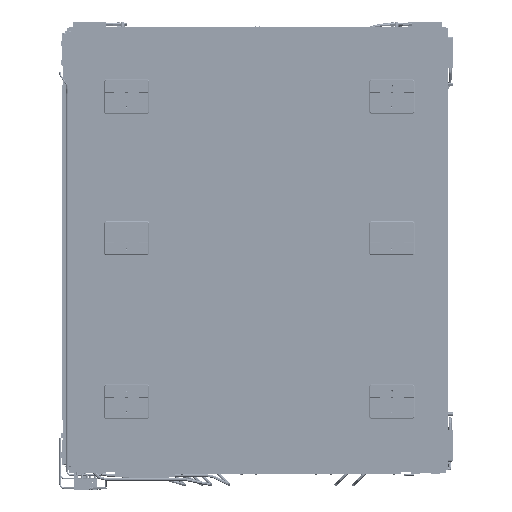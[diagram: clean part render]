
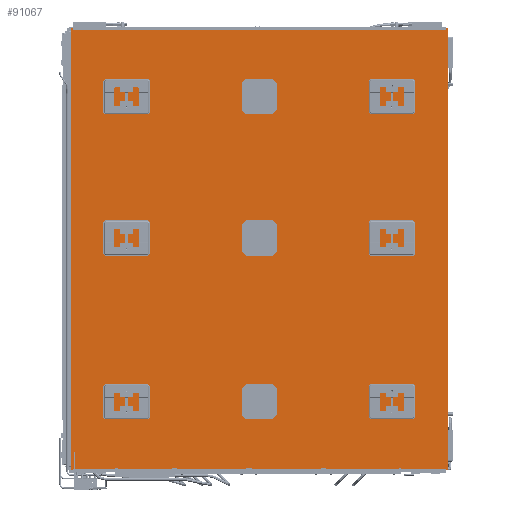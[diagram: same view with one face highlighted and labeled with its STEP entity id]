
A CAD part, front view. The second image highlights one B-rep face of the part: STEP entity #91067.
In plain terms, the highlighted planar face has unit normal (0, -1, 0).
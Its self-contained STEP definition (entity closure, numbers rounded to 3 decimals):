
#4866=B_SPLINE_CURVE_WITH_KNOTS('',1,(#467479,#467480),.UNSPECIFIED.,.F.,
 .F.,(2,2),(0.,1.),.UNSPECIFIED.);
#4870=B_SPLINE_CURVE_WITH_KNOTS('',1,(#467491,#467492),.UNSPECIFIED.,.F.,
 .F.,(2,2),(0.,1.),.UNSPECIFIED.);
#4871=B_SPLINE_CURVE_WITH_KNOTS('',1,(#467494,#467495),.UNSPECIFIED.,.F.,
 .F.,(2,2),(0.,1.),.UNSPECIFIED.);
#4872=B_SPLINE_CURVE_WITH_KNOTS('',1,(#467497,#467498),.UNSPECIFIED.,.F.,
 .F.,(2,2),(0.,1.),.UNSPECIFIED.);
#57856=FACE_OUTER_BOUND('',#131988,.T.);
#91067=ADVANCED_FACE('',(#57856),#101712,.T.);
#101712=PLANE('',#298922);
#131988=EDGE_LOOP('',(#192848,#192849,#192850,#192851));
#192848=ORIENTED_EDGE('',*,*,#261274,.T.);
#192849=ORIENTED_EDGE('',*,*,#261278,.T.);
#192850=ORIENTED_EDGE('',*,*,#261279,.F.);
#192851=ORIENTED_EDGE('',*,*,#261280,.F.);
#228194=VERTEX_POINT('',#467478);
#228195=VERTEX_POINT('',#467481);
#228197=VERTEX_POINT('',#467490);
#228198=VERTEX_POINT('',#467496);
#261274=EDGE_CURVE('',#228195,#228194,#4866,.T.);
#261278=EDGE_CURVE('',#228194,#228197,#4870,.T.);
#261279=EDGE_CURVE('',#228198,#228197,#4871,.T.);
#261280=EDGE_CURVE('',#228195,#228198,#4872,.T.);
#298922=AXIS2_PLACEMENT_3D('',#467499,#361100,#361101);
#361100=DIRECTION('',(0.,-1.,0.));
#361101=DIRECTION('',(1.,0.,0.));
#467478=CARTESIAN_POINT('',(-1440.,4167.489,-6581.5));
#467479=CARTESIAN_POINT('',(-1440.,4167.489,-4085.5));
#467480=CARTESIAN_POINT('',(-1440.,4167.489,-6581.5));
#467481=CARTESIAN_POINT('',(-1440.,4167.489,-4085.5));
#467490=CARTESIAN_POINT('',(689.,4167.485,-6581.5));
#467491=CARTESIAN_POINT('',(-1440.,4167.489,-6581.5));
#467492=CARTESIAN_POINT('',(689.,4167.485,-6581.5));
#467494=CARTESIAN_POINT('',(689.,4167.485,-4085.5));
#467495=CARTESIAN_POINT('',(689.,4167.485,-6581.5));
#467496=CARTESIAN_POINT('',(689.,4167.485,-4085.5));
#467497=CARTESIAN_POINT('',(-1440.,4167.489,-4085.5));
#467498=CARTESIAN_POINT('',(689.,4167.485,-4085.5));
#467499=CARTESIAN_POINT('',(-375.5,4167.487,-5333.5));
